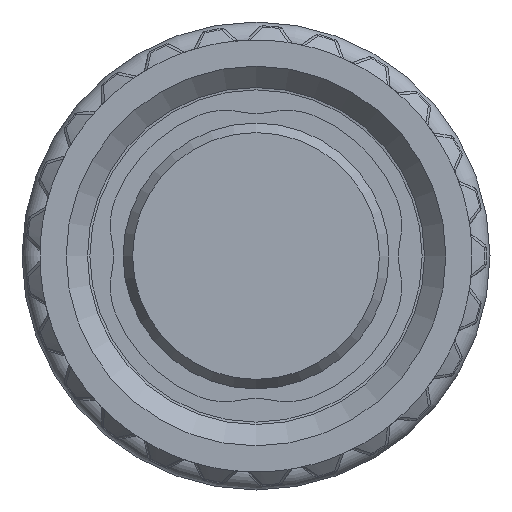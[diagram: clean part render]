
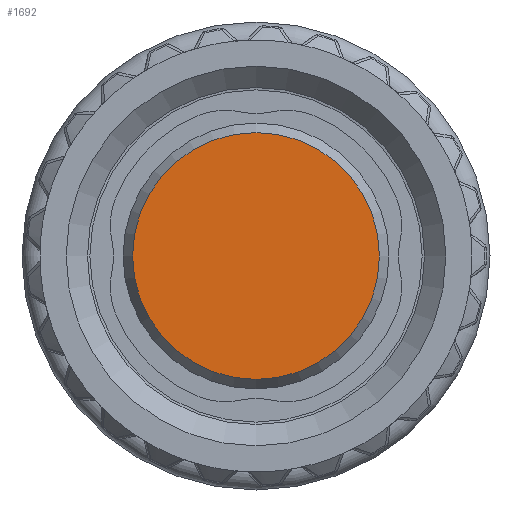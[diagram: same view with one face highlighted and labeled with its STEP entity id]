
A CAD part, left-side view. The second image highlights one B-rep face of the part: STEP entity #1692.
In plain terms, the highlighted planar face has unit normal (-1, 0, 0).
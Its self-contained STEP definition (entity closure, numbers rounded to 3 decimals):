
#1676=CARTESIAN_POINT('',(0.0,1.3,0.0));
#1677=DIRECTION('',(-1.0,0.0,0.0));
#1678=DIRECTION('',(0.0,0.0,1.0));
#1679=AXIS2_PLACEMENT_3D('',#1676,#1677,#1678);
#1680=PLANE('',#1679);
#1681=CARTESIAN_POINT('',(0.0,2.6,0.0));
#1682=VERTEX_POINT('',#1681);
#1683=CARTESIAN_POINT('',(0.0,0.0,0.0));
#1684=DIRECTION('',(1.0,0.0,0.0));
#1685=DIRECTION('',(0.0,1.0,0.0));
#1686=AXIS2_PLACEMENT_3D('',#1683,#1684,#1685);
#1687=CIRCLE('',#1686,2.6);
#1688=EDGE_CURVE('',#1682,#1682,#1687,.T.);
#1689=ORIENTED_EDGE('',*,*,#1688,.F.);
#1690=EDGE_LOOP('',(#1689));
#1691=FACE_OUTER_BOUND('',#1690,.T.);
#1692=ADVANCED_FACE('',(#1691),#1680,.T.);
